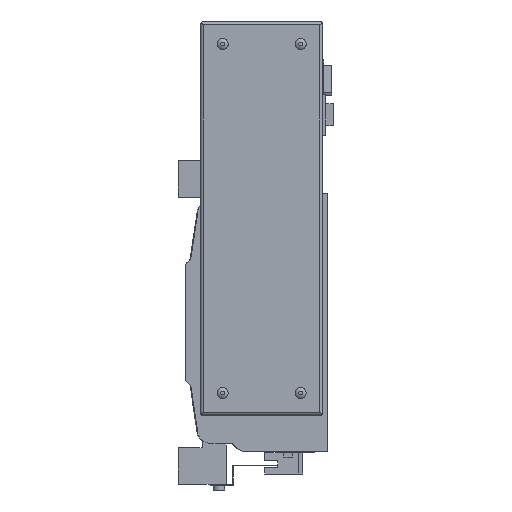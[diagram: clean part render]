
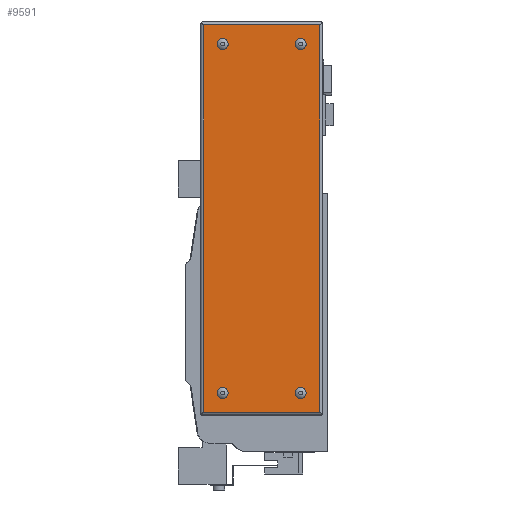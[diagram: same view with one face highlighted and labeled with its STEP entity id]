
A CAD part, left-side view. The second image highlights one B-rep face of the part: STEP entity #9591.
In plain terms, the highlighted planar face has unit normal (-1, 0, 0).
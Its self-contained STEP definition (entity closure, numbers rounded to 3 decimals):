
#275=PLANE('',#10326);
#987=LINE('',#14747,#2077);
#988=LINE('',#14750,#2078);
#989=LINE('',#14752,#2079);
#990=LINE('',#14754,#2080);
#2077=VECTOR('',#11962,1000.);
#2078=VECTOR('',#11963,1000.);
#2079=VECTOR('',#11964,1000.);
#2080=VECTOR('',#11965,1000.);
#3838=ORIENTED_EDGE('',*,*,#5981,.F.);
#3839=ORIENTED_EDGE('',*,*,#5982,.F.);
#3840=ORIENTED_EDGE('',*,*,#5983,.F.);
#3841=ORIENTED_EDGE('',*,*,#5984,.F.);
#3842=ORIENTED_EDGE('',*,*,#5985,.F.);
#3843=ORIENTED_EDGE('',*,*,#5986,.F.);
#3844=ORIENTED_EDGE('',*,*,#5987,.T.);
#3845=ORIENTED_EDGE('',*,*,#5988,.T.);
#5981=EDGE_CURVE('',#7159,#7159,#7783,.F.);
#5982=EDGE_CURVE('',#7160,#7160,#7784,.F.);
#5983=EDGE_CURVE('',#7161,#7161,#7785,.F.);
#5984=EDGE_CURVE('',#7162,#7162,#7786,.F.);
#5985=EDGE_CURVE('',#7163,#7164,#987,.T.);
#5986=EDGE_CURVE('',#7165,#7163,#988,.T.);
#5987=EDGE_CURVE('',#7165,#7166,#989,.T.);
#5988=EDGE_CURVE('',#7166,#7164,#990,.T.);
#7159=VERTEX_POINT('',#14740);
#7160=VERTEX_POINT('',#14742);
#7161=VERTEX_POINT('',#14744);
#7162=VERTEX_POINT('',#14746);
#7163=VERTEX_POINT('',#14748);
#7164=VERTEX_POINT('',#14749);
#7165=VERTEX_POINT('',#14751);
#7166=VERTEX_POINT('',#14753);
#7783=CIRCLE('',#10327,3.7);
#7784=CIRCLE('',#10328,3.7);
#7785=CIRCLE('',#10329,3.7);
#7786=CIRCLE('',#10330,3.7);
#8201=EDGE_LOOP('',(#3838));
#8202=EDGE_LOOP('',(#3839));
#8203=EDGE_LOOP('',(#3840));
#8204=EDGE_LOOP('',(#3841));
#8205=EDGE_LOOP('',(#3842,#3843,#3844,#3845));
#8870=FACE_BOUND('',#8201,.T.);
#8871=FACE_BOUND('',#8202,.T.);
#8872=FACE_BOUND('',#8203,.T.);
#8873=FACE_BOUND('',#8204,.T.);
#8874=FACE_BOUND('',#8205,.T.);
#9591=ADVANCED_FACE('',(#8870,#8871,#8872,#8873,#8874),#275,.F.);
#10326=AXIS2_PLACEMENT_3D('',#14738,#11952,#11953);
#10327=AXIS2_PLACEMENT_3D('',#14739,#11954,#11955);
#10328=AXIS2_PLACEMENT_3D('',#14741,#11956,#11957);
#10329=AXIS2_PLACEMENT_3D('',#14743,#11958,#11959);
#10330=AXIS2_PLACEMENT_3D('',#14745,#11960,#11961);
#11952=DIRECTION('',(1.,0.,0.));
#11953=DIRECTION('',(0.,0.,-1.));
#11954=DIRECTION('',(1.,0.,0.));
#11955=DIRECTION('',(0.,0.,-1.));
#11956=DIRECTION('',(1.,0.,0.));
#11957=DIRECTION('',(0.,0.,-1.));
#11958=DIRECTION('',(1.,0.,0.));
#11959=DIRECTION('',(0.,0.,-1.));
#11960=DIRECTION('',(1.,0.,0.));
#11961=DIRECTION('',(0.,0.,-1.));
#11962=DIRECTION('',(0.,0.,-1.));
#11963=DIRECTION('',(0.,-1.,0.));
#11964=DIRECTION('',(0.,0.,-1.));
#11965=DIRECTION('',(0.,-1.,0.));
#14738=CARTESIAN_POINT('',(-66.,0.,0.));
#14739=CARTESIAN_POINT('',(-66.,18.5,189.));
#14740=CARTESIAN_POINT('',(-66.,18.5,185.3));
#14741=CARTESIAN_POINT('',(-66.,18.5,-48.));
#14742=CARTESIAN_POINT('',(-66.,18.5,-51.7));
#14743=CARTESIAN_POINT('',(-66.,71.5,189.));
#14744=CARTESIAN_POINT('',(-66.,71.5,185.3));
#14745=CARTESIAN_POINT('',(-66.,71.5,-48.));
#14746=CARTESIAN_POINT('',(-66.,71.5,-51.7));
#14747=CARTESIAN_POINT('',(-66.,5.5,267.));
#14748=CARTESIAN_POINT('',(-66.,5.5,202.));
#14749=CARTESIAN_POINT('',(-66.,5.5,-61.));
#14750=CARTESIAN_POINT('',(-66.,267.,202.));
#14751=CARTESIAN_POINT('',(-66.,84.5,202.));
#14752=CARTESIAN_POINT('',(-66.,84.5,267.));
#14753=CARTESIAN_POINT('',(-66.,84.5,-61.));
#14754=CARTESIAN_POINT('',(-66.,267.,-61.));
